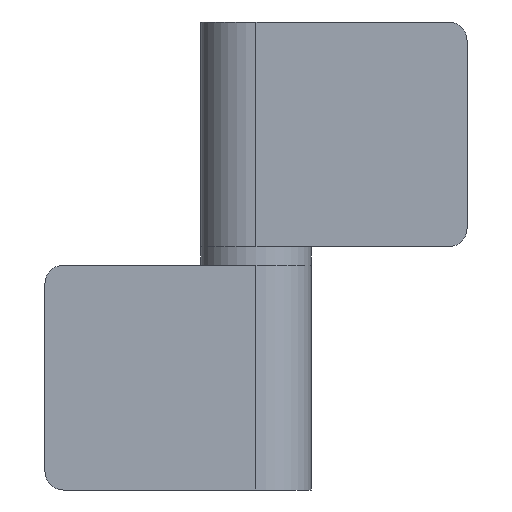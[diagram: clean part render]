
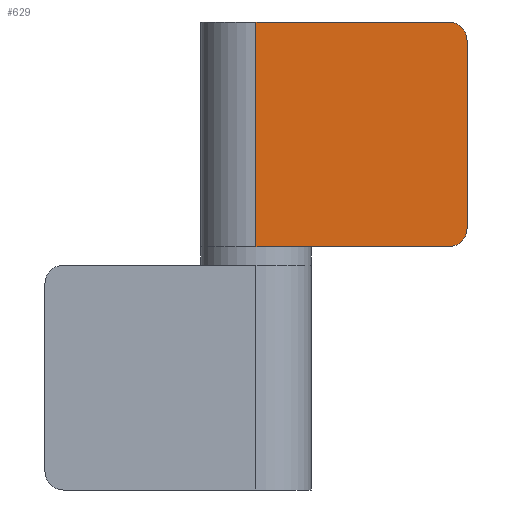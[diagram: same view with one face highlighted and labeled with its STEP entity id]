
A CAD part, front view. The second image highlights one B-rep face of the part: STEP entity #629.
In plain terms, the highlighted planar face has unit normal (0, -1, 0).
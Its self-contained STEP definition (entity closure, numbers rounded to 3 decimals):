
#13 = CARTESIAN_POINT ( 'NONE',  ( 0., -6., 0. ) ) ;
#29 = CARTESIAN_POINT ( 'NONE',  ( 23., -6., -22.5 ) ) ;
#36 = EDGE_CURVE ( 'NONE', #328, #1036, #969, .T. ) ;
#47 = DIRECTION ( 'NONE',  ( 0., -1., 0. ) ) ;
#76 = DIRECTION ( 'NONE',  ( 0., 0., 1. ) ) ;
#100 = VECTOR ( 'NONE', #76, 1000. ) ;
#108 = CARTESIAN_POINT ( 'NONE',  ( 0., -6., -24.5 ) ) ;
#150 = ORIENTED_EDGE ( 'NONE', *, *, #1007, .T. ) ;
#178 = CARTESIAN_POINT ( 'NONE',  ( 21., -6., 0. ) ) ;
#212 = CIRCLE ( 'NONE', #882, 2. ) ;
#228 = DIRECTION ( 'NONE',  ( 0., 0., -1. ) ) ;
#239 = DIRECTION ( 'NONE',  ( 0., 0., -1. ) ) ;
#265 = EDGE_CURVE ( 'NONE', #1125, #763, #781, .T. ) ;
#300 = CARTESIAN_POINT ( 'NONE',  ( 0., -6., -24.5 ) ) ;
#301 = EDGE_CURVE ( 'NONE', #492, #1125, #433, .T. ) ;
#328 = VERTEX_POINT ( 'NONE', #1045 ) ;
#364 = DIRECTION ( 'NONE',  ( 0., -1., 0. ) ) ;
#383 = VECTOR ( 'NONE', #989, 1000. ) ;
#404 = AXIS2_PLACEMENT_3D ( 'NONE', #1118, #854, #239 ) ;
#418 = ORIENTED_EDGE ( 'NONE', *, *, #265, .T. ) ;
#429 = ORIENTED_EDGE ( 'NONE', *, *, #36, .F. ) ;
#433 = CIRCLE ( 'NONE', #404, 2. ) ;
#449 = DIRECTION ( 'NONE',  ( 1., 0., 0. ) ) ;
#462 = EDGE_CURVE ( 'NONE', #1134, #492, #892, .T. ) ;
#492 = VERTEX_POINT ( 'NONE', #990 ) ;
#543 = VECTOR ( 'NONE', #832, 1000. ) ;
#564 = LINE ( 'NONE', #922, #543 ) ;
#565 = FACE_OUTER_BOUND ( 'NONE', #1057, .T. ) ;
#590 = CARTESIAN_POINT ( 'NONE',  ( 23., -6., -24.5 ) ) ;
#629 = ADVANCED_FACE ( 'NONE', ( #565 ), #924, .T. ) ;
#638 = CARTESIAN_POINT ( 'NONE',  ( 23., -6., -2. ) ) ;
#710 = ORIENTED_EDGE ( 'NONE', *, *, #301, .T. ) ;
#726 = CARTESIAN_POINT ( 'NONE',  ( 21., -6., -2. ) ) ;
#745 = CARTESIAN_POINT ( 'NONE',  ( 0., -6., -24.5 ) ) ;
#763 = VERTEX_POINT ( 'NONE', #638 ) ;
#781 = LINE ( 'NONE', #590, #100 ) ;
#782 = DIRECTION ( 'NONE',  ( 0., 0., -1. ) ) ;
#832 = DIRECTION ( 'NONE',  ( 0., 0., 1. ) ) ;
#851 = ORIENTED_EDGE ( 'NONE', *, *, #462, .T. ) ;
#854 = DIRECTION ( 'NONE',  ( 0., -1., 0. ) ) ;
#855 = ORIENTED_EDGE ( 'NONE', *, *, #900, .F. ) ;
#858 = AXIS2_PLACEMENT_3D ( 'NONE', #745, #47, #228 ) ;
#882 = AXIS2_PLACEMENT_3D ( 'NONE', #726, #364, #782 ) ;
#892 = LINE ( 'NONE', #108, #1026 ) ;
#900 = EDGE_CURVE ( 'NONE', #1134, #328, #564, .T. ) ;
#922 = CARTESIAN_POINT ( 'NONE',  ( 0., -6., -24.5 ) ) ;
#924 = PLANE ( 'NONE',  #858 ) ;
#969 = LINE ( 'NONE', #13, #383 ) ;
#989 = DIRECTION ( 'NONE',  ( 1., 0., 0. ) ) ;
#990 = CARTESIAN_POINT ( 'NONE',  ( 21., -6., -24.5 ) ) ;
#1007 = EDGE_CURVE ( 'NONE', #763, #1036, #212, .T. ) ;
#1026 = VECTOR ( 'NONE', #449, 1000. ) ;
#1036 = VERTEX_POINT ( 'NONE', #178 ) ;
#1045 = CARTESIAN_POINT ( 'NONE',  ( 0., -6., 0. ) ) ;
#1057 = EDGE_LOOP ( 'NONE', ( #418, #150, #429, #855, #851, #710 ) ) ;
#1118 = CARTESIAN_POINT ( 'NONE',  ( 21., -6., -22.5 ) ) ;
#1125 = VERTEX_POINT ( 'NONE', #29 ) ;
#1134 = VERTEX_POINT ( 'NONE', #300 ) ;
